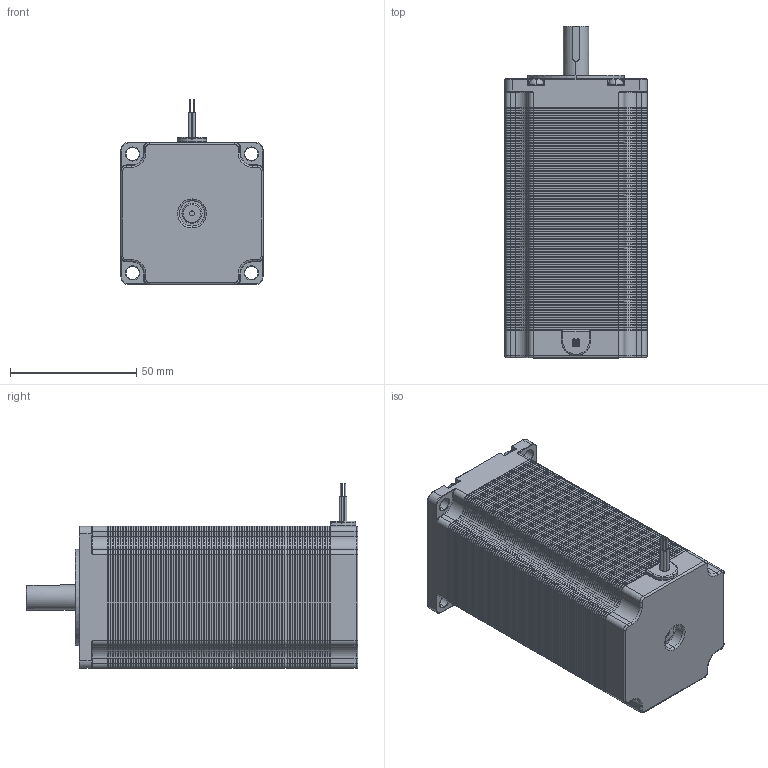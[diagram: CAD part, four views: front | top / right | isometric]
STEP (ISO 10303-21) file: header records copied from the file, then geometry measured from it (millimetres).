
FILE_DESCRIPTION (( 'STEP AP214' ), '1' );
FILE_NAME ('Nema 23 Stepper Motor length 112mm_10mm_key.STEP', '2020-11-11T14:28:24', ( 'Moofasta' ), ( '' ), 'SwSTEP 2.0', 'SolidWorks 2020', '' );
FILE_SCHEMA (( 'AUTOMOTIVE_DESIGN' ));
Length unit declared in the file: millimetre
Products named in the file (1): Nema 23 Stepper Motor length 112mm_10mm_key
Bounding box: 56.3 x 131.5 x 73.3 mm (x, y, z)
Volume: 318680.6 mm3; surface area: 536969.2 mm2
Topology: 104 solids, 104 shells, 6990 faces, 15885 edges, 9089 vertices
Faces by surface type: plane 3517, cone 2140, cylinder 1219, torus 94, sphere 12, bspline 8
Entity records: 264824 total; most frequent: DIRECTION 34478, CARTESIAN_POINT 32425, ORIENTED_EDGE 31730, EDGE_CURVE 15865, AXIS2_PLACEMENT_3D 11706, VECTOR 11066, LINE 11066, VERTEX_POINT 9089
